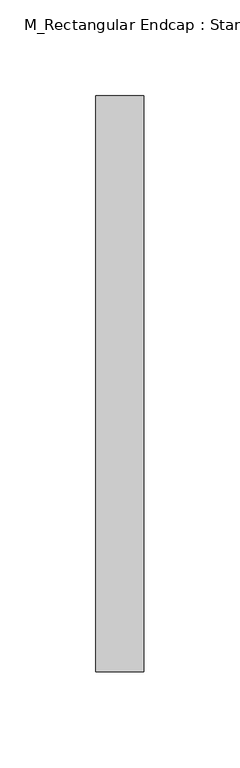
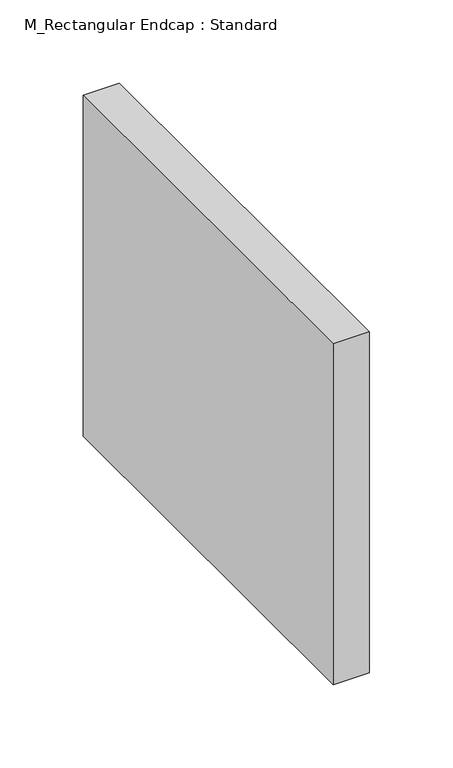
"""IFC4 building model written with IfcOpenShell, lengths in millimetres: duct fitting geometry, M_Rectangular Endcap : Standard."""

from ifc_helpers import new_model, si_unit, frame, origin, place, context, project, spatial, polyline, outline, extrude, source, transform, mapped, element, save


def m_rectangular_endcap_standard_5bd312fc(model_context):
    return source(origin(), model_context, "Body", "SweptSolid", [
        extrude(outline(polyline([(0.0, -150.0), (0.0, 150.0), (25.0, 150.0), (25.0, -150.0), (0.0, -150.0)])), frame((0.0, 0.0, -125.0), z_axis=(0.0, 0.0, 1.0), x_axis=(1.0, 0.0, 0.0)), (0.0, 0.0, 1.0), 250.0),
    ])


if __name__ == "__main__":
    model = new_model("IFC4")
    model_context = context("Model", 3, world=origin())
    ifc_project = project(units=[si_unit("LENGTHUNIT", "METRE", prefix="MILLI")], contexts=[model_context])
    site = spatial("IfcSite", under=ifc_project)
    building = spatial("IfcBuilding", under=site)
    placement = place(None, origin())
    m_rectangular_endcap_standard_shape = m_rectangular_endcap_standard_5bd312fc(model_context)
    element("IfcDuctFitting", 1, ObjectType="M_Rectangular Endcap : Standard", at=placement, inside=building, context=model_context, shape_type="MappedRepresentation", body=[
        mapped(m_rectangular_endcap_standard_shape, transform((0.0, 0.0, 0.0), x_axis=(1.0, 0.0, 0.0), y_axis=(0.0, 1.0, 0.0), z_axis=(0.0, 0.0, 1.0))),
    ])
    save(model, "model.ifc")
